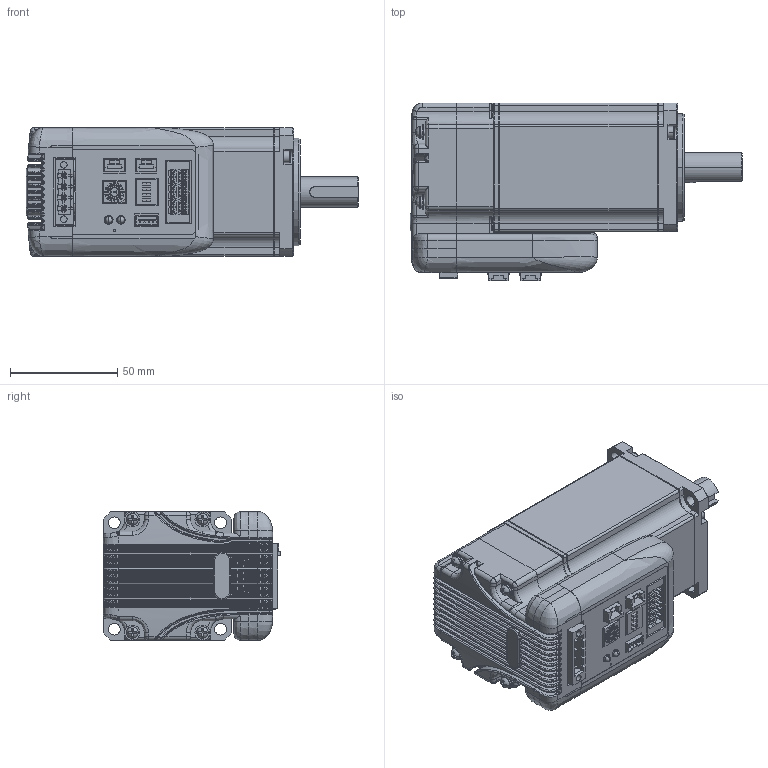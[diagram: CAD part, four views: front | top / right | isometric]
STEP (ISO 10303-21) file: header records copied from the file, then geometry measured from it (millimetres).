
FILE_DESCRIPTION((''),'2;1');
FILE_NAME('ISV2-6020_ASM','2021-07-28T15:40:21',('chensf'),(''),'CREO PARAMETRIC BY PTC INC, 2019010','CREO PARAMETRIC BY PTC INC, 2019010','');
FILE_SCHEMA(('CONFIG_CONTROL_DESIGN','GEOMETRIC_VALIDATION_PROPERTIES_MIM'));
Products named in the file (39): MANIFOLD_SOLID_BREP_169; 60_200W_8_ASM_ASM_ASM_ASM; PRT0004_7_40; PRT0005_3_11; PRT0004_36; HEADER_2_0_4X_3; XB_3; PB_4P_5; B04B-ZESK-1D_2; PHOENIX______2__6_5; CONNECTOR_5MMCLOSED4PIN_MALE_1; PCB_ASM_12_ASM_ASM_ASM_ASM; PRT0003_46; M3X8_GB818_9_1; D3_GB9074_26_11_1; D3_GB9074_24_14_1; M3X8_GB9074_4_ASM_1_ASM_ASM_ASM_ASM; ISV2HG_202011123_4; ASM0003_ASM_60_ASM_ASM_ASM_ASM; PRT0002; ASM0001_ASM_ASM_ASM; ISV2_6020V48C_B_ALL_ASM_ASM; _1-SOLID1_1_30001; CROSS_RECESSED_CTSK_WOOD_-102_1; 26-1-SOLID1_1_2_300; ISV2-1_-1-SOLIX70001; _2-SOLID1_10001; HEXAGON_SOCKET_HEAD_CAP_S-218_1; HEXAGON_SOCKET_HEAD_CAP_S-218_2; HEXAGON_SOCKET_HEAD_CAP_S-319_1; _2-SOLID1_10002; CROSS_RECESSED_CTSK_WOOD_-325_1; ISV2-2_-1-50001; CROSS_RECESSED_CTSK_WOOD_-328_1; CROSS_RECESSED_CTSK_WOOD_-330_1; HEXAGON_SOCKET_HEAD_CAP_S-330_1; ISV2-6020V24C-B_1_2_ASM; ISV2-6020V48C-B_ASM; ISV2-6020_ASM
Assembly tree (42 placements, depth 6):
  ISV2-6020_ASM
    ISV2_6020V48C_B_ALL_ASM_ASM
      ASM0001_ASM_ASM_ASM
        ASM0003_ASM_60_ASM_ASM_ASM_ASM
          60_200W_8_ASM_ASM_ASM_ASM
            MANIFOLD_SOLID_BREP_169
          PCB_ASM_12_ASM_ASM_ASM_ASM
            PRT0004_7_40
            PRT0005_3_11
            PRT0004_36
            HEADER_2_0_4X_3
            XB_3
            PB_4P_5
            B04B-ZESK-1D_2  x2
            PHOENIX______2__6_5
            CONNECTOR_5MMCLOSED4PIN_MALE_1
          PRT0003_46
          M3X8_GB9074_4_ASM_1_ASM_ASM_ASM_ASM  x4
            M3X8_GB818_9_1
            D3_GB9074_26_11_1
            D3_GB9074_24_14_1
          ISV2HG_202011123_4
        PRT0002
    ISV2-6020V48C-B_ASM
      ISV2-6020V24C-B_1_2_ASM
        _1-SOLID1_1_30001
        CROSS_RECESSED_CTSK_WOOD_-102_1
        26-1-SOLID1_1_2_300
        ISV2-1_-1-SOLIX70001
        _2-SOLID1_10001
        HEXAGON_SOCKET_HEAD_CAP_S-218_1
        HEXAGON_SOCKET_HEAD_CAP_S-218_2
        HEXAGON_SOCKET_HEAD_CAP_S-319_1
        _2-SOLID1_10002
        CROSS_RECESSED_CTSK_WOOD_-325_1
        ISV2-2_-1-50001
        CROSS_RECESSED_CTSK_WOOD_-328_1
        CROSS_RECESSED_CTSK_WOOD_-330_1
        HEXAGON_SOCKET_HEAD_CAP_S-330_1
Bounding box: 154.7 x 82.9 x 60 mm (x, y, z)
Volume: 417841.5 mm3; surface area: 173278.6 mm2
Topology: 40 solids, 41 shells, 3893 faces, 10183 edges, 6413 vertices
Faces by surface type: plane 2121, cylinder 932, cone 336, bspline 232, extrusion 162, torus 84, sphere 20, revolution 6
Entity records: 143870 total; most frequent: CARTESIAN_POINT 43630, ORIENTED_EDGE 19154, DIRECTION 17321, EDGE_CURVE 9577, VECTOR 6329, LINE 6167, VERTEX_POINT 6091, AXIS2_PLACEMENT_3D 5493
